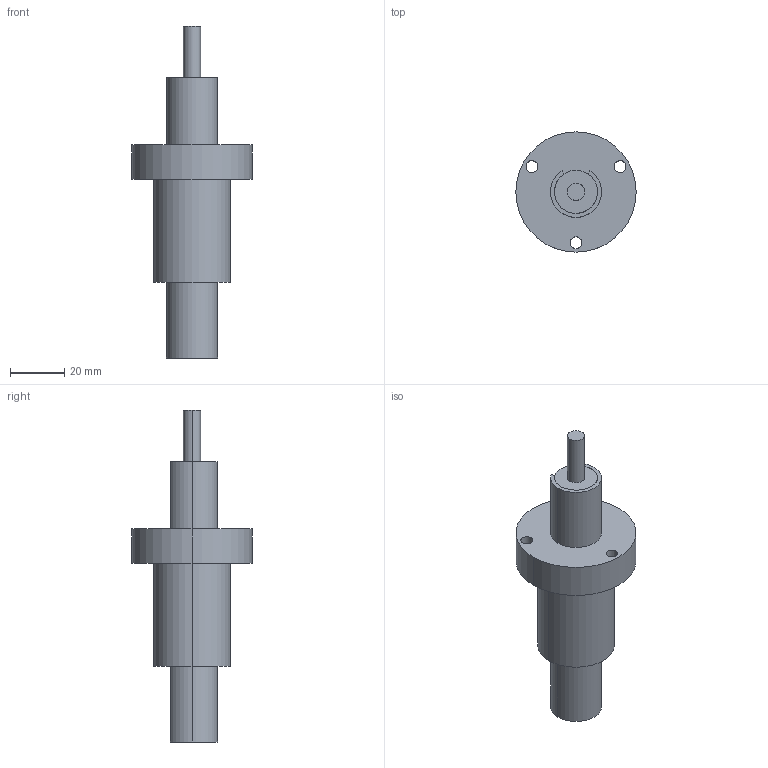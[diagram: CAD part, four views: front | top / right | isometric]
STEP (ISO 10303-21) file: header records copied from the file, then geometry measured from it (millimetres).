
FILE_DESCRIPTION (( 'STEP AP214' ), '1' );
FILE_NAME ('AMETEK-SRA06KR-A00-0100-01-000.STEP', '2022-03-08T08:03:19', ( '' ), ( '' ), 'SwSTEP 2.0', 'SolidWorks 2021', '' );
FILE_SCHEMA (( 'AUTOMOTIVE_DESIGN' ));
Length unit declared in the file: inch
Products named in the file (6): 6000 srail component build up 1; SRA6000; SR6000 Lead screw; SR6000 Rail; AMETEK-SRA06KR-A00-0100-01-000; 6000 srail component build up 2
Assembly tree (5 placements, depth 2):
  AMETEK-SRA06KR-A00-0100-01-000
    SR6000 Rail
    6000 srail component build up 1
    6000 srail component build up 2
    SRA6000
    SR6000 Lead screw
Bounding box: 44.45 x 44.45 x 122.68 mm (x, y, z)
Volume: 54751.2 mm3; surface area: 29236.2 mm2
Topology: 5 solids, 5 shells, 63 faces, 150 edges, 100 vertices
Faces by surface type: cylinder 44, plane 19
Entity records: 2993 total; most frequent: DIRECTION 380, CARTESIAN_POINT 321, ORIENTED_EDGE 300, AXIS2_PLACEMENT_3D 159, EDGE_CURVE 150, VERTEX_POINT 100, CIRCLE 88, EDGE_LOOP 80
